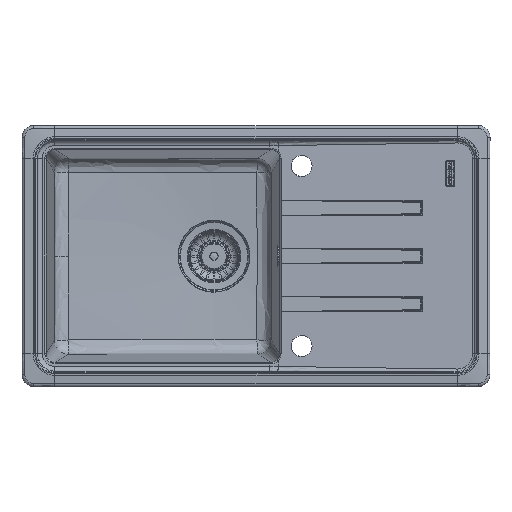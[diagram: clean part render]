
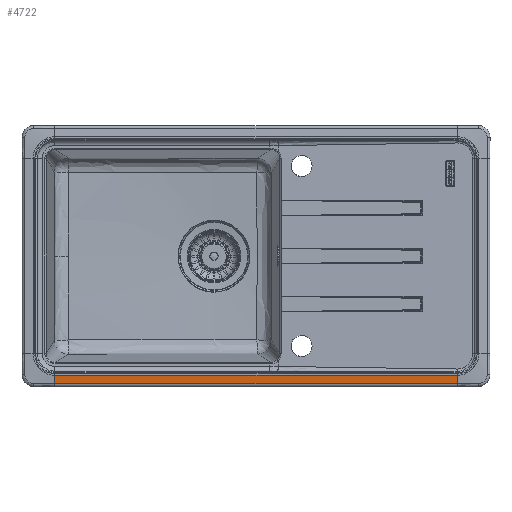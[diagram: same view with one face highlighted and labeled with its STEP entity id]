
A CAD part, top view. The second image highlights one B-rep face of the part: STEP entity #4722.
In plain terms, the highlighted planar face has unit normal (0, -0.102, 0.995).
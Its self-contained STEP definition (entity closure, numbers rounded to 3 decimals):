
#1536=B_SPLINE_CURVE_WITH_KNOTS('',1,(#76751,#76752),.UNSPECIFIED.,.F.,
 .F.,(2,2),(-670.11,0.),.UNSPECIFIED.);
#1558=B_SPLINE_CURVE_WITH_KNOTS('',1,(#77508,#77509),.UNSPECIFIED.,.F.,
 .F.,(2,2),(0.,13.946),.UNSPECIFIED.);
#1561=B_SPLINE_CURVE_WITH_KNOTS('',1,(#77542,#77543),.UNSPECIFIED.,.F.,
 .F.,(2,2),(-13.946,0.),.UNSPECIFIED.);
#1562=B_SPLINE_CURVE_WITH_KNOTS('',1,(#77544,#77545),.UNSPECIFIED.,.F.,
 .F.,(2,2),(-670.011,0.),.UNSPECIFIED.);
#3684=PLANE('',#29376);
#4722=ADVANCED_FACE('',(#6410),#3684,.T.);
#6410=FACE_OUTER_BOUND('',#8138,.T.);
#8138=EDGE_LOOP('',(#13148,#13149,#13150,#13151));
#13148=ORIENTED_EDGE('',*,*,#19612,.F.);
#13149=ORIENTED_EDGE('',*,*,#19661,.T.);
#13150=ORIENTED_EDGE('',*,*,#19662,.T.);
#13151=ORIENTED_EDGE('',*,*,#19658,.F.);
#19612=EDGE_CURVE('',#26259,#26258,#1536,.T.);
#19658=EDGE_CURVE('',#26258,#26285,#1558,.T.);
#19661=EDGE_CURVE('',#26259,#26287,#1561,.T.);
#19662=EDGE_CURVE('',#26287,#26285,#1562,.T.);
#26258=VERTEX_POINT('',#69336);
#26259=VERTEX_POINT('',#69337);
#26285=VERTEX_POINT('',#69363);
#26287=VERTEX_POINT('',#69365);
#29376=AXIS2_PLACEMENT_3D('',#54483,#32522,$);
#32522=DIRECTION('',(0.,-0.102,0.995));
#54483=CARTESIAN_POINT('',(402.578,-67.761,136.82));
#69336=CARTESIAN_POINT('',(-335.055,-83.144,135.249));
#69337=CARTESIAN_POINT('',(335.055,-83.144,135.249));
#69363=CARTESIAN_POINT('',(-335.005,-69.27,136.666));
#69365=CARTESIAN_POINT('',(335.005,-69.27,136.666));
#76751=CARTESIAN_POINT('',(335.055,-83.144,135.249));
#76752=CARTESIAN_POINT('',(-335.055,-83.144,135.249));
#77508=CARTESIAN_POINT('',(-335.055,-83.144,135.249));
#77509=CARTESIAN_POINT('',(-335.005,-69.27,136.666));
#77542=CARTESIAN_POINT('',(335.055,-83.144,135.249));
#77543=CARTESIAN_POINT('',(335.005,-69.27,136.666));
#77544=CARTESIAN_POINT('',(335.005,-69.27,136.666));
#77545=CARTESIAN_POINT('',(-335.005,-69.27,136.666));
